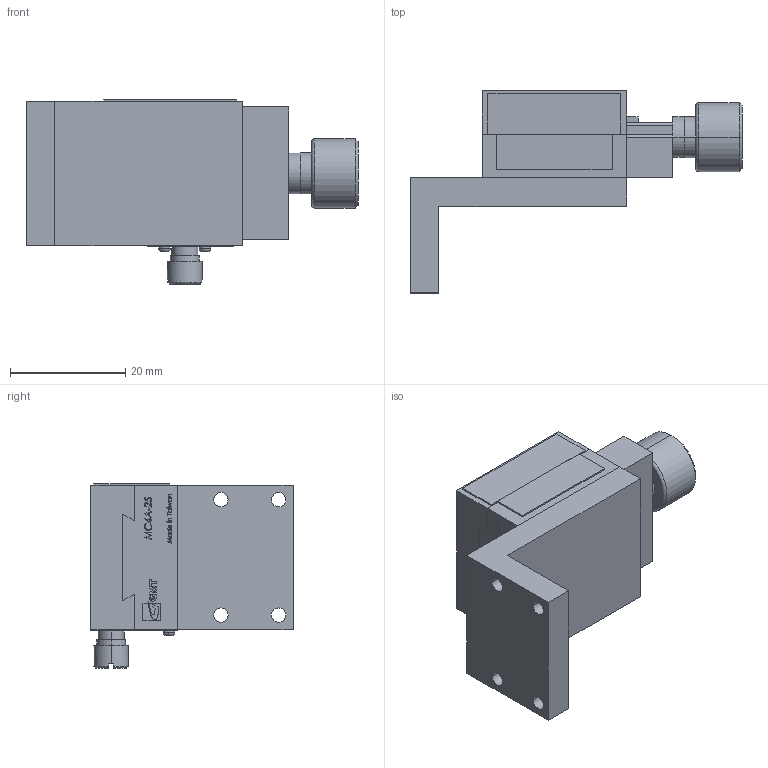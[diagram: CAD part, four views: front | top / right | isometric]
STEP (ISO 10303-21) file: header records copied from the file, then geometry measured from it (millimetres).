
FILE_DESCRIPTION (( 'STEP AP203' ), '1' );
FILE_NAME ('MC4A-25.STEP', '2008-07-19T07:07:27', ( 'user' ), ( '' ), 'SwSTEP 2.0', 'SolidWorks 2007', '' );
FILE_SCHEMA (( 'CONFIG_CONTROL_DESIGN' ));
Length unit declared in the file: millimetre
Products named in the file (1): MC4A-25
Bounding box: 57.5 x 35 x 31.95 mm (x, y, z)
Volume: 18318 mm3; surface area: 11292.4 mm2
Topology: 12 solids, 12 shells, 600 faces, 1567 edges, 1032 vertices
Faces by surface type: plane 363, cylinder 126, bspline 85, cone 20, torus 6
Entity records: 23026 total; most frequent: CARTESIAN_POINT 8581, ORIENTED_EDGE 3110, DIRECTION 2671, EDGE_CURVE 1555, VECTOR 1067, LINE 1067, VERTEX_POINT 1032, AXIS2_PLACEMENT_3D 802
